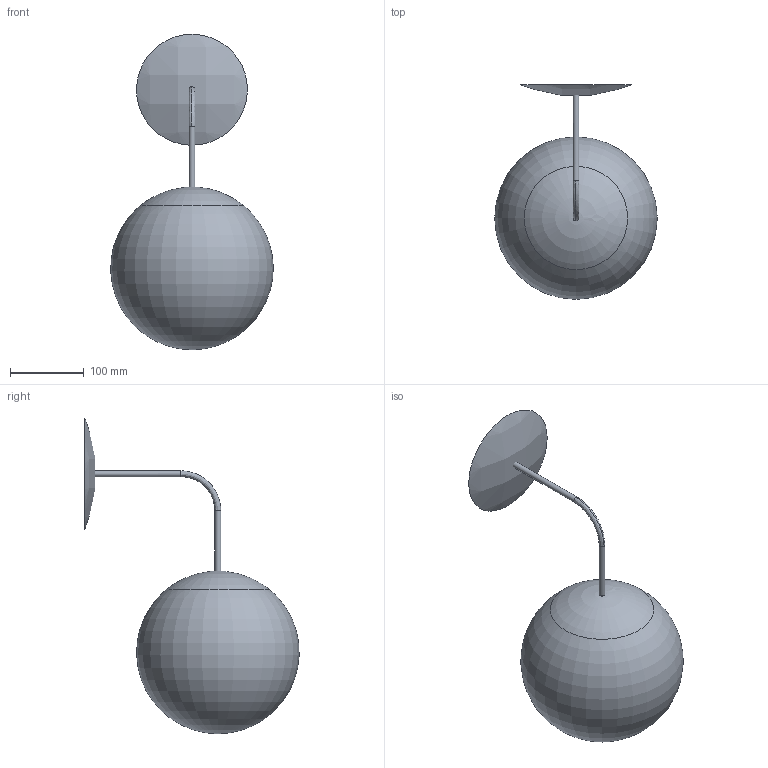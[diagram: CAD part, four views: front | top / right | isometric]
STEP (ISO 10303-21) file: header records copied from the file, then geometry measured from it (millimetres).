
FILE_DESCRIPTION(('STEP AP214'),'1');
FILE_NAME('Bacan Riesco Wall_1.stp','2018-12-18T22:34:19',(' '),(' '),'Spatial InterOp 3D',' ',' ');
FILE_SCHEMA(('AUTOMOTIVE_DESIGN { 1 0 10303 214 1 1 1 1 }'));
Length unit declared in the file: millimetre
Products named in the file (1): 1
Bounding box: 219.91 x 289.92 x 426.66 mm (x, y, z)
Volume: 5722857.2 mm3; surface area: 237367 mm2
Topology: 3 solids, 5 shells, 15 faces, 45 edges, 35 vertices
Faces by surface type: bspline 15
Entity records: 6618 total; most frequent: CARTESIAN_POINT 6336, ORIENTED_EDGE 59, EDGE_CURVE 32, VERTEX_POINT 31, B_SPLINE_CURVE_WITH_KNOTS 30, EDGE_LOOP 20, B_SPLINE_SURFACE_WITH_KNOTS 15, FACE_BOUND 15
